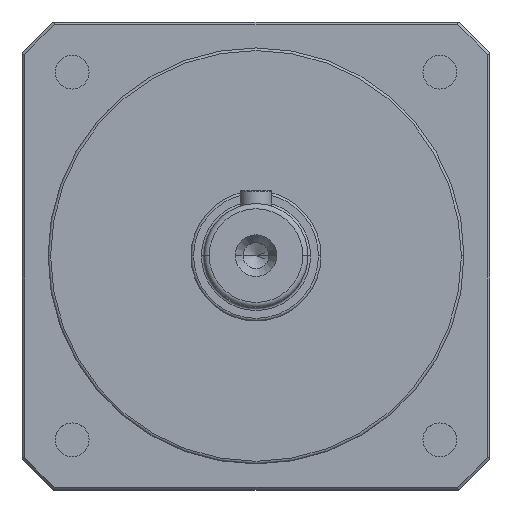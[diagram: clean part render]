
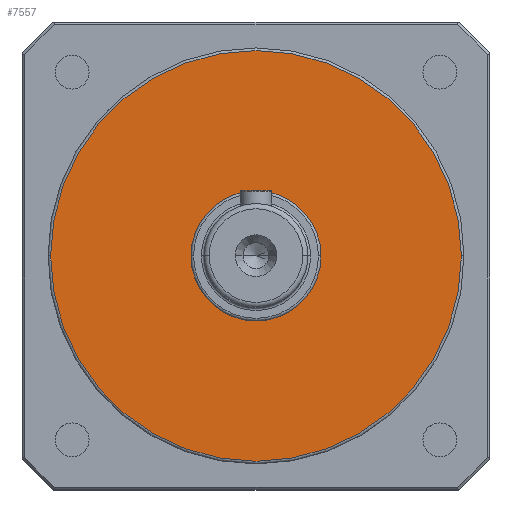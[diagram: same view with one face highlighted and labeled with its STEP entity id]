
A CAD part, top view. The second image highlights one B-rep face of the part: STEP entity #7557.
In plain terms, the highlighted planar face has unit normal (0, 0, 1).
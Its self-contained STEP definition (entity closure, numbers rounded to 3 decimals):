
#1180 = CARTESIAN_POINT ( 'NONE',  ( 0., 0., 3. ) ) ;
#1667 = DIRECTION ( 'NONE',  ( 0., 0., 1. ) ) ;
#1719 = EDGE_CURVE ( 'NONE', #3137, #2344, #3952, .T. ) ;
#1844 = FACE_OUTER_BOUND ( 'NONE', #6217, .T. ) ;
#1855 = DIRECTION ( 'NONE',  ( 0., 0., 1. ) ) ;
#2037 = AXIS2_PLACEMENT_3D ( 'NONE', #2611, #1855, #6767 ) ;
#2170 = CIRCLE ( 'NONE', #3456, 12.5 ) ;
#2316 = AXIS2_PLACEMENT_3D ( 'NONE', #7269, #4914, #7220 ) ;
#2344 = VERTEX_POINT ( 'NONE', #7236 ) ;
#2514 = AXIS2_PLACEMENT_3D ( 'NONE', #3582, #3415, #5836 ) ;
#2611 = CARTESIAN_POINT ( 'NONE',  ( 0., 0., 3. ) ) ;
#2802 = CARTESIAN_POINT ( 'NONE',  ( -12.5, 0., 3. ) ) ;
#2815 = AXIS2_PLACEMENT_3D ( 'NONE', #6331, #6976, #7340 ) ;
#2942 = ORIENTED_EDGE ( 'NONE', *, *, #3144, .T. ) ;
#3137 = VERTEX_POINT ( 'NONE', #6530 ) ;
#3144 = EDGE_CURVE ( 'NONE', #2344, #3137, #3167, .T. ) ;
#3167 = CIRCLE ( 'NONE', #2514, 39.5 ) ;
#3215 = CIRCLE ( 'NONE', #2815, 12.5 ) ;
#3415 = DIRECTION ( 'NONE',  ( 0., 0., 1. ) ) ;
#3456 = AXIS2_PLACEMENT_3D ( 'NONE', #1180, #1667, #4106 ) ;
#3556 = VERTEX_POINT ( 'NONE', #5378 ) ;
#3579 = EDGE_CURVE ( 'NONE', #3556, #4882, #2170, .T. ) ;
#3582 = CARTESIAN_POINT ( 'NONE',  ( 0., 0., 3. ) ) ;
#3952 = CIRCLE ( 'NONE', #2037, 39.5 ) ;
#4106 = DIRECTION ( 'NONE',  ( 1., 0., 0. ) ) ;
#4370 = ORIENTED_EDGE ( 'NONE', *, *, #3579, .F. ) ;
#4507 = EDGE_LOOP ( 'NONE', ( #4370, #6488 ) ) ;
#4882 = VERTEX_POINT ( 'NONE', #2802 ) ;
#4914 = DIRECTION ( 'NONE',  ( 0., 0., 1. ) ) ;
#5378 = CARTESIAN_POINT ( 'NONE',  ( 12.5, 0., 3. ) ) ;
#5401 = FACE_BOUND ( 'NONE', #4507, .T. ) ;
#5417 = ORIENTED_EDGE ( 'NONE', *, *, #1719, .T. ) ;
#5813 = EDGE_CURVE ( 'NONE', #4882, #3556, #3215, .T. ) ;
#5836 = DIRECTION ( 'NONE',  ( 1., 0., 0. ) ) ;
#6217 = EDGE_LOOP ( 'NONE', ( #5417, #2942 ) ) ;
#6331 = CARTESIAN_POINT ( 'NONE',  ( 0., 0., 3. ) ) ;
#6488 = ORIENTED_EDGE ( 'NONE', *, *, #5813, .F. ) ;
#6530 = CARTESIAN_POINT ( 'NONE',  ( 39.5, 0., 3. ) ) ;
#6767 = DIRECTION ( 'NONE',  ( 1., 0., 0. ) ) ;
#6976 = DIRECTION ( 'NONE',  ( 0., 0., 1. ) ) ;
#7220 = DIRECTION ( 'NONE',  ( 1., 0., 0. ) ) ;
#7236 = CARTESIAN_POINT ( 'NONE',  ( -39.5, 0., 3. ) ) ;
#7269 = CARTESIAN_POINT ( 'NONE',  ( 0., 0., 3. ) ) ;
#7340 = DIRECTION ( 'NONE',  ( 1., 0., 0. ) ) ;
#7557 = ADVANCED_FACE ( 'NONE', ( #5401, #1844 ), #7836, .T. ) ;
#7836 = PLANE ( 'NONE',  #2316 ) ;
